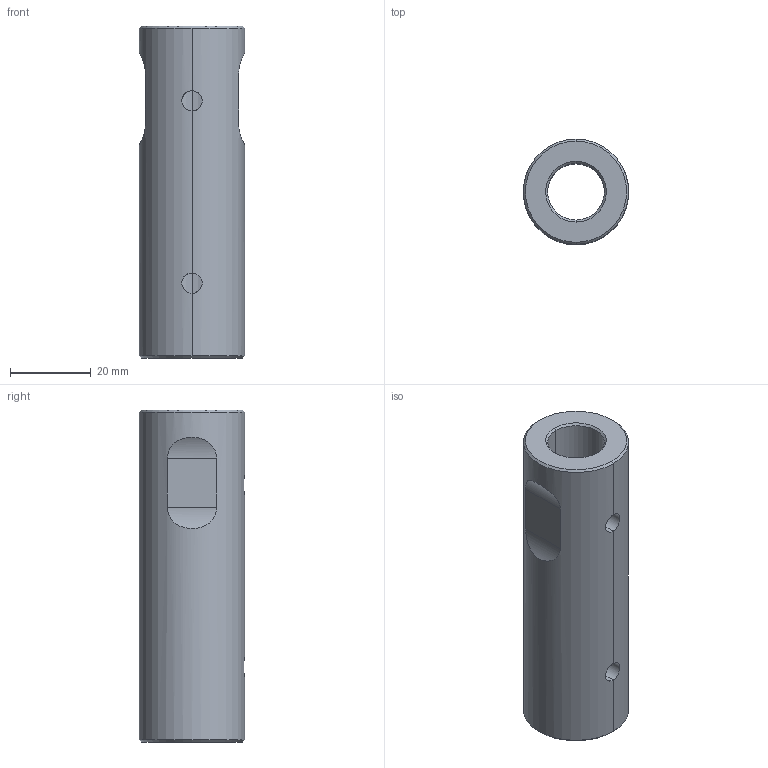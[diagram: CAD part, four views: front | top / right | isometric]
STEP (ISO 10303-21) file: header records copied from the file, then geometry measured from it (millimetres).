
FILE_DESCRIPTION (( 'STEP AP203' ), '1' );
FILE_NAME ('Spannschloss M16.STEP', '2018-02-22T09:58:30', ( 'install' ), ( 'Hewlett-Packard Company' ), 'SwSTEP 2.0', 'SolidWorks 2017', '' );
FILE_SCHEMA (( 'CONFIG_CONTROL_DESIGN' ));
Length unit declared in the file: millimetre
Products named in the file (1): Spannschloss M16
Bounding box: 26 x 26 x 82 mm (x, y, z)
Volume: 25246.9 mm3; surface area: 11852.7 mm2
Topology: 1 solids, 1 shells, 30 faces, 66 edges, 38 vertices
Faces by surface type: cylinder 16, cone 8, plane 6
Entity records: 1275 total; most frequent: CARTESIAN_POINT 535, DIRECTION 140, ORIENTED_EDGE 132, EDGE_CURVE 66, AXIS2_PLACEMENT_3D 55, VERTEX_POINT 38, EDGE_LOOP 36, LINE 30
